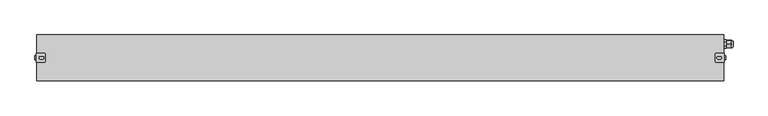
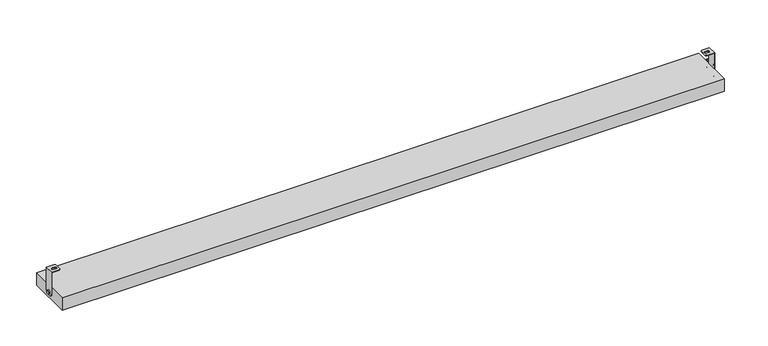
"""IFC4 building model written with IfcOpenShell, lengths in millimetres: light fixture geometry, GENILED_Светильник светодиодный_Titan Advanced : Titan Advanced 1500x100x30 60Вт IP66 Матовое закаленное стекло."""

from ifc_helpers import new_model, si_unit, point, frame, frame_2d, origin, origin_with_axes, place, context, project, spatial, polyline, circle_curve, ellipse_curve, trimmed, segment, composite_curve, outline, extrude, source, transform, mapped, element, save
from ifc_brep_helpers import plane_surface, cylinder_surface, revolved_surface, advanced_brep


def light_fixture_ddc3e724(model_context):
    return source(origin(), model_context, "Body", "SolidModel", [
        advanced_brep(
        [(-734.0, 10.0, 67.0), (-751.0, 10.0, 67.0), (-751.0, -10.0, 67.0), (-734.0, -10.0, 67.0), (-731.0, -7.0, 67.0), (-731.0, 7.0, 67.0), (-737.0, 2.75, 67.0), (-737.0, -2.75, 67.0), (-742.0, -2.75, 67.0), (-742.0, 2.75, 67.0), (-734.0, -10.0, 66.0), (-750.0, -10.0, 66.0), (-750.0, 10.0, 66.0), (-734.0, 10.0, 66.0), (-731.0, 7.0, 66.0), (-731.0, -7.0, 66.0), (-737.0, 2.75, 66.0), (-742.0, 2.75, 66.0), (-742.0, -2.75, 66.0), (-737.0, -2.75, 66.0), (-751.0, -10.0, 15.0), (-750.0, -10.0, 15.0), (-751.0, 10.0, 15.0), (-751.0, 2.0, 7.0), (-751.0, -2.0, 7.0), (-751.0, 4.0, 15.0), (-751.0, -4.0, 15.0), (-750.0, 10.0, 15.0), (-750.0, -2.0, 7.0), (-750.0, 2.0, 7.0), (-754.0, -4.0, 15.0), (-754.0, 4.0, 15.0)],
        [
            (0, 1),
            (1, 2),
            (2, 3),
            (3, 4, circle_curve(frame((-734.0, -7.0, 67.0), z_axis=(0.0, 0.0, 1.0), x_axis=(-1.0, 0.0, 0.0)), 3.0)),
            (4, 5),
            (5, 0, circle_curve(frame((-734.0, 7.0, 67.0), z_axis=(0.0, 0.0, 1.0), x_axis=(-1.0, 0.0, 0.0)), 3.0)),
            (6, 7, circle_curve(frame((-737.0, 0.0, 67.0), z_axis=(0.0, 0.0, -1.0), x_axis=(-1.0, 0.0, 0.0)), 2.75)),
            (7, 8),
            (8, 9, circle_curve(frame((-742.0, 0.0, 67.0), z_axis=(0.0, 0.0, -1.0), x_axis=(-1.0, 0.0, 0.0)), 2.75)),
            (9, 6),
            (10, 11),
            (11, 12),
            (12, 13),
            (13, 14, circle_curve(frame((-734.0, 7.0, 66.0), z_axis=(0.0, 0.0, -1.0), x_axis=(-1.0, 0.0, 0.0)), 3.0)),
            (14, 15),
            (15, 10, circle_curve(frame((-734.0, -7.0, 66.0), z_axis=(0.0, 0.0, -1.0), x_axis=(-1.0, 0.0, 0.0)), 3.0)),
            (16, 17),
            (17, 18, circle_curve(frame((-742.0, 0.0, 66.0), z_axis=(0.0, 0.0, 1.0), x_axis=(-1.0, 0.0, 0.0)), 2.75)),
            (18, 19),
            (19, 16, circle_curve(frame((-737.0, 0.0, 66.0), z_axis=(0.0, 0.0, 1.0), x_axis=(-1.0, 0.0, 0.0)), 2.75)),
            (5, 14),
            (13, 0),
            (4, 15),
            (3, 10),
            (2, 20),
            (20, 21),
            (21, 11),
            (1, 22),
            (22, 23, circle_curve(frame((-751.0, 2.0, 15.0), z_axis=(-1.0, 0.0, 0.0), x_axis=(0.0, 1.0, 0.0)), 8.0)),
            (23, 24),
            (24, 20, circle_curve(frame((-751.0, -2.0, 15.0), z_axis=(-1.0, 0.0, 0.0), x_axis=(0.0, 1.0, 0.0)), 8.0)),
            (25, 26, circle_curve(frame((-751.0, 0.0, 15.0), z_axis=(1.0, 0.0, 0.0), x_axis=(0.0, 1.0, 0.0)), 4.0)),
            (26, 25, circle_curve(frame((-751.0, 0.0, 15.0), z_axis=(1.0, 0.0, 0.0), x_axis=(0.0, 1.0, 0.0)), 4.0)),
            (12, 27),
            (27, 22),
            (9, 17),
            (16, 6),
            (8, 18),
            (7, 19),
            (21, 28, circle_curve(frame((-750.0, -2.0, 15.0), z_axis=(1.0, 0.0, 0.0), x_axis=(0.0, 1.0, 0.0)), 8.0)),
            (28, 29),
            (29, 27, circle_curve(frame((-750.0, 2.0, 15.0), z_axis=(1.0, 0.0, 0.0), x_axis=(0.0, 1.0, 0.0)), 8.0)),
            (24, 28),
            (23, 29),
            (30, 31, circle_curve(frame((-754.0, 0.0, 15.0), z_axis=(-1.0, 0.0, 0.0), x_axis=(0.0, 1.0, 0.0)), 4.0)),
            (31, 30, circle_curve(frame((-754.0, 0.0, 15.0), z_axis=(-1.0, 0.0, 0.0), x_axis=(0.0, 1.0, 0.0)), 4.0)),
            (31, 25),
            (26, 30),
        ],
        [
            plane_surface(frame((-737.0, 7.0, 67.0), z_axis=(0.0, 0.0, 1.0), x_axis=(0.0, 1.0, 0.0))),
            plane_surface(frame((-737.0, 7.0, 66.0), z_axis=(0.0, 0.0, -1.0), x_axis=(0.0, -1.0, 0.0))),
            cylinder_surface(frame((-734.0, 7.0, 66.0), z_axis=(0.0, 0.0, 1.0), x_axis=(-1.0, 0.0, 0.0)), 3.0),
            plane_surface(frame((-731.0, 7.0, 67.0), z_axis=(1.0, 0.0, 0.0), x_axis=(0.0, 0.0, -1.0))),
            cylinder_surface(frame((-734.0, -7.0, 66.0), z_axis=(0.0, 0.0, 1.0), x_axis=(-1.0, 0.0, 0.0)), 3.0),
            plane_surface(frame((-734.0, -10.0, 67.0), z_axis=(0.0, -1.0, 0.0), x_axis=(0.0, 0.0, -1.0))),
            plane_surface(frame((-751.0, -10.0, 67.0), z_axis=(-1.0, 0.0, 0.0), x_axis=(0.0, 0.0, -1.0))),
            plane_surface(frame((-751.0, 10.0, 67.0), z_axis=(0.0, 1.0, 0.0), x_axis=(0.0, 0.0, -1.0))),
            plane_surface(frame((-737.0, 2.75, 67.0), z_axis=(0.0, -1.0, 0.0), x_axis=(0.0, 0.0, -1.0))),
            revolved_surface(polyline([(-744.75, 0.0, 66.0), (-744.75, 0.0, 67.0)]), (-742.0, 0.0, 15.0), (0.0, 0.0, -1.0)),
            plane_surface(frame((-742.0, -2.75, 67.0), z_axis=(0.0, 1.0, 0.0), x_axis=(0.0, 0.0, -1.0))),
            revolved_surface(polyline([(-739.75, 0.0, 66.0), (-739.75, 0.0, 67.0)]), (-737.0, 0.0, 15.0), (0.0, 0.0, -1.0)),
            plane_surface(frame((-750.0, -10.0, 67.0), z_axis=(1.0, 0.0, 0.0), x_axis=(0.0, 1.0, 0.0))),
            cylinder_surface(frame((-750.0, -2.0, 15.0), z_axis=(-1.0, 0.0, 0.0), x_axis=(0.0, 1.0, 0.0)), 8.0),
            plane_surface(frame((-751.0, -2.0, 7.0), z_axis=(0.0, 0.0, -1.0), x_axis=(1.0, 0.0, 0.0))),
            cylinder_surface(frame((-750.0, 2.0, 15.0), z_axis=(-1.0, 0.0, 0.0), x_axis=(0.0, 1.0, 0.0)), 8.0),
            plane_surface(frame((-754.0, 4.0, 15.0), z_axis=(-1.0, 0.0, 0.0), x_axis=(0.0, 0.0, 1.0))),
            cylinder_surface(frame((-751.0, 0.0, 15.0), z_axis=(-1.0, 0.0, 0.0), x_axis=(0.0, 1.0, 0.0)), 4.0),
        ],
        [
            (0, [[1, 2, 3, 4, 5, 6], [7, 8, 9, 10]]),
            (1, [[11, 12, 13, 14, 15, 16], [17, 18, 19, 20]]),
            (2, [[21, -14, 22, -6]]),
            (3, [[23, -15, -21, -5]]),
            (4, [[24, -16, -23, -4]]),
            (5, [[-3, 25, 26, 27, -11, -24]]),
            (6, [[28, 29, 30, 31, -25, -2], [32, 33]]),
            (7, [[-13, 34, 35, -28, -1, -22]]),
            (8, [[36, -17, 37, -10]]),
            (9, [[38, -18, -36, -9]]),
            (10, [[39, -19, -38, -8]]),
            (11, [[-37, -20, -39, -7]]),
            (12, [[-34, -12, -27, 40, 41, 42]]),
            (13, [[43, -40, -26, -31]]),
            (14, [[44, -41, -43, -30]]),
            (15, [[-35, -42, -44, -29]]),
            (16, [[45, 46]]),
            (17, [[47, -33, 48, -46]]),
            (17, [[-48, -32, -47, -45]]),
        ],
    ),
        advanced_brep(
        [(734.0, 10.0, 67.0), (731.0, 7.0, 67.0), (731.0, -7.0, 67.0), (734.0, -10.0, 67.0), (751.0, -10.0, 67.0), (751.0, 10.0, 67.0), (737.0, 2.75, 67.0), (742.0, 2.75, 67.0), (742.0, -2.75, 67.0), (737.0, -2.75, 67.0), (734.0, -10.0, 66.0), (731.0, -7.0, 66.0), (731.0, 7.0, 66.0), (734.0, 10.0, 66.0), (750.0, 10.0, 66.0), (750.0, -10.0, 66.0), (737.0, 2.75, 66.0), (737.0, -2.75, 66.0), (742.0, -2.75, 66.0), (742.0, 2.75, 66.0), (750.0, -10.0, 15.0), (751.0, -10.0, 15.0), (751.0, -2.0, 7.0), (751.0, 2.0, 7.0), (751.0, 10.0, 15.0), (751.0, 4.0, 15.0), (751.0, -4.0, 15.0), (750.0, 10.0, 15.0), (750.0, 2.0, 7.0), (750.0, -2.0, 7.0), (754.0, -4.0, 15.0), (754.0, 4.0, 15.0)],
        [
            (0, 1, circle_curve(frame((734.0, 7.0, 67.0), z_axis=(0.0, 0.0, 1.0), x_axis=(1.0, 0.0, 0.0)), 3.0)),
            (1, 2),
            (2, 3, circle_curve(frame((734.0, -7.0, 67.0), z_axis=(0.0, 0.0, 1.0), x_axis=(1.0, 0.0, 0.0)), 3.0)),
            (3, 4),
            (4, 5),
            (5, 0),
            (6, 7),
            (7, 8, circle_curve(frame((742.0, 0.0, 67.0), z_axis=(0.0, 0.0, -1.0), x_axis=(1.0, 0.0, 0.0)), 2.75)),
            (8, 9),
            (9, 6, circle_curve(frame((737.0, 0.0, 67.0), z_axis=(0.0, 0.0, -1.0), x_axis=(1.0, 0.0, 0.0)), 2.75)),
            (10, 11, circle_curve(frame((734.0, -7.0, 66.0), z_axis=(0.0, 0.0, -1.0), x_axis=(1.0, 0.0, 0.0)), 3.0)),
            (11, 12),
            (12, 13, circle_curve(frame((734.0, 7.0, 66.0), z_axis=(0.0, 0.0, -1.0), x_axis=(1.0, 0.0, 0.0)), 3.0)),
            (13, 14),
            (14, 15),
            (15, 10),
            (16, 17, circle_curve(frame((737.0, 0.0, 66.0), z_axis=(0.0, 0.0, 1.0), x_axis=(1.0, 0.0, 0.0)), 2.75)),
            (17, 18),
            (18, 19, circle_curve(frame((742.0, 0.0, 66.0), z_axis=(0.0, 0.0, 1.0), x_axis=(1.0, 0.0, 0.0)), 2.75)),
            (19, 16),
            (0, 13),
            (12, 1),
            (11, 2),
            (10, 3),
            (15, 20),
            (20, 21),
            (21, 4),
            (21, 22, circle_curve(frame((751.0, -2.0, 15.0), z_axis=(1.0, 0.0, 0.0), x_axis=(0.0, 1.0, 0.0)), 8.0)),
            (22, 23),
            (23, 24, circle_curve(frame((751.0, 2.0, 15.0), z_axis=(1.0, 0.0, 0.0), x_axis=(0.0, 1.0, 0.0)), 8.0)),
            (24, 5),
            (25, 26, circle_curve(frame((751.0, 0.0, 15.0), z_axis=(-1.0, 0.0, 0.0), x_axis=(0.0, 1.0, 0.0)), 4.0)),
            (26, 25, circle_curve(frame((751.0, 0.0, 15.0), z_axis=(-1.0, 0.0, 0.0), x_axis=(0.0, 1.0, 0.0)), 4.0)),
            (24, 27),
            (27, 14),
            (6, 16),
            (19, 7),
            (18, 8),
            (17, 9),
            (27, 28, circle_curve(frame((750.0, 2.0, 15.0), z_axis=(-1.0, 0.0, 0.0), x_axis=(0.0, 1.0, 0.0)), 8.0)),
            (28, 29),
            (29, 20, circle_curve(frame((750.0, -2.0, 15.0), z_axis=(-1.0, 0.0, 0.0), x_axis=(0.0, 1.0, 0.0)), 8.0)),
            (29, 22),
            (28, 23),
            (30, 31, circle_curve(frame((754.0, 0.0, 15.0), z_axis=(1.0, 0.0, 0.0), x_axis=(0.0, 1.0, 0.0)), 4.0)),
            (31, 30, circle_curve(frame((754.0, 0.0, 15.0), z_axis=(1.0, 0.0, 0.0), x_axis=(0.0, 1.0, 0.0)), 4.0)),
            (30, 26),
            (25, 31),
        ],
        [
            plane_surface(frame((737.0, 7.0, 67.0), z_axis=(0.0, 0.0, 1.0), x_axis=(0.0, 1.0, 0.0))),
            plane_surface(frame((737.0, 7.0, 66.0), z_axis=(0.0, 0.0, -1.0), x_axis=(0.0, -1.0, 0.0))),
            cylinder_surface(frame((734.0, 7.0, 66.0), z_axis=(0.0, 0.0, 1.0), x_axis=(1.0, 0.0, 0.0)), 3.0),
            plane_surface(frame((731.0, 7.0, 67.0), z_axis=(-1.0, 0.0, 0.0), x_axis=(0.0, 0.0, -1.0))),
            cylinder_surface(frame((734.0, -7.0, 66.0), z_axis=(0.0, 0.0, 1.0), x_axis=(1.0, 0.0, 0.0)), 3.0),
            plane_surface(frame((734.0, -10.0, 67.0), z_axis=(0.0, -1.0, 0.0), x_axis=(0.0, 0.0, -1.0))),
            plane_surface(frame((751.0, -10.0, 67.0), z_axis=(1.0, 0.0, 0.0), x_axis=(0.0, 0.0, -1.0))),
            plane_surface(frame((751.0, 10.0, 67.0), z_axis=(0.0, 1.0, 0.0), x_axis=(0.0, 0.0, -1.0))),
            plane_surface(frame((737.0, 2.75, 67.0), z_axis=(0.0, -1.0, 0.0), x_axis=(0.0, 0.0, -1.0))),
            revolved_surface(polyline([(744.75, 0.0, 66.0), (744.75, 0.0, 67.0)]), (742.0, 0.0, 15.0), (0.0, 0.0, -1.0)),
            plane_surface(frame((742.0, -2.75, 67.0), z_axis=(0.0, 1.0, 0.0), x_axis=(0.0, 0.0, -1.0))),
            revolved_surface(polyline([(739.75, 0.0, 66.0), (739.75, 0.0, 67.0)]), (737.0, 0.0, 15.0), (0.0, 0.0, -1.0)),
            plane_surface(frame((750.0, -10.0, 67.0), z_axis=(-1.0, 0.0, 0.0), x_axis=(0.0, 1.0, 0.0))),
            cylinder_surface(frame((750.0, -2.0, 15.0), z_axis=(1.0, 0.0, 0.0), x_axis=(0.0, 1.0, 0.0)), 8.0),
            plane_surface(frame((751.0, -2.0, 7.0), z_axis=(0.0, 0.0, -1.0), x_axis=(-1.0, 0.0, 0.0))),
            cylinder_surface(frame((750.0, 2.0, 15.0), z_axis=(1.0, 0.0, 0.0), x_axis=(0.0, 1.0, 0.0)), 8.0),
            plane_surface(frame((754.0, 4.0, 15.0), z_axis=(1.0, 0.0, 0.0), x_axis=(0.0, 0.0, 1.0))),
            cylinder_surface(frame((751.0, 0.0, 15.0), z_axis=(1.0, 0.0, 0.0), x_axis=(0.0, 1.0, 0.0)), 4.0),
        ],
        [
            (0, [[1, 2, 3, 4, 5, 6], [7, 8, 9, 10]]),
            (1, [[11, 12, 13, 14, 15, 16], [17, 18, 19, 20]]),
            (2, [[-1, 21, -13, 22]]),
            (3, [[-2, -22, -12, 23]]),
            (4, [[-3, -23, -11, 24]]),
            (5, [[-24, -16, 25, 26, 27, -4]]),
            (6, [[-5, -27, 28, 29, 30, 31], [32, 33]]),
            (7, [[-21, -6, -31, 34, 35, -14]]),
            (8, [[-7, 36, -20, 37]]),
            (9, [[-8, -37, -19, 38]]),
            (10, [[-9, -38, -18, 39]]),
            (11, [[-10, -39, -17, -36]]),
            (12, [[40, 41, 42, -25, -15, -35]]),
            (13, [[-28, -26, -42, 43]]),
            (14, [[-29, -43, -41, 44]]),
            (15, [[-30, -44, -40, -34]]),
            (16, [[45, 46]]),
            (17, [[-45, 47, -32, 48]]),
            (17, [[-46, -48, -33, -47]]),
        ],
    ),
        advanced_brep(
        [(770.0120269, 24.15, 15.0), (770.0120269, 35.85, 15.0), (770.0120269, 33.5, 15.0), (770.0120269, 26.5, 15.0), (766.0120269, 22.0, 15.0), (766.0120269, 26.0, 8.0717968), (766.0120269, 34.0, 8.0717968), (766.0120269, 38.0, 15.0), (766.0120269, 34.0, 21.9282032), (766.0120269, 26.0, 21.9282032), (766.0120269, 33.5, 15.0), (766.0120269, 26.5, 15.0), (766.0120269, 22.0, 10.8768944), (766.0120269, 22.4292858, 10.1333496), (766.0120269, 29.5707142, 6.010244), (766.0120269, 30.4292858, 6.010244), (766.0120269, 37.5707142, 10.1333496), (766.0120269, 38.0, 10.8768944), (766.0120269, 38.0, 19.1231056), (766.0120269, 37.5707142, 19.8666504), (766.0120269, 30.4292858, 23.989756), (766.0120269, 29.5707142, 23.989756), (766.0120269, 22.4292858, 19.8666504), (766.0120269, 22.0, 19.1231056), (756.6, 29.5707142, 6.010244), (756.6, 22.4292858, 10.1333496), (756.6, 22.0, 10.8768944), (756.6, 22.0, 19.1231056), (756.6, 22.4292858, 19.8666504), (756.6, 29.5707142, 23.989756), (756.6, 30.4292858, 23.989756), (756.6, 37.5707142, 19.8666504), (756.6, 38.0, 19.1231056), (756.6, 38.0, 10.8768944), (756.6, 37.5707142, 10.1333496), (756.6, 30.4292858, 6.010244), (756.6, 37.25, 15.0), (756.6, 22.75, 15.0), (754.6, 37.25, 15.0), (754.6, 22.75, 15.0), (754.6, 38.989756, 15.4292858), (754.6, 34.8666504, 22.5707142), (754.6, 34.1231056, 23.0), (754.6, 25.8768944, 23.0), (754.6, 25.1333496, 22.5707142), (754.6, 21.010244, 15.4292858), (754.6, 21.0, 15.0), (754.6, 21.010244, 14.5707142), (754.6, 25.1333496, 7.4292858), (754.6, 25.8768944, 7.0), (754.6, 34.1231056, 7.0), (754.6, 34.8666504, 7.4292858), (754.6, 38.989756, 14.5707142), (754.6, 39.0, 15.0), (750.0, 38.989756, 14.5707142), (750.0, 34.8666504, 7.4292858), (750.0, 34.1231056, 7.0), (750.0, 25.8768944, 7.0), (750.0, 25.1333496, 7.4292858), (750.0, 21.010244, 14.5707142), (750.0, 21.0, 15.0), (750.0, 21.010244, 15.4292858), (750.0, 25.1333496, 22.5707142), (750.0, 25.8768944, 23.0), (750.0, 34.1231056, 23.0), (750.0, 34.8666504, 22.5707142), (750.0, 38.989756, 15.4292858), (750.0, 39.0, 15.0)],
        [
            (0, 1, circle_curve(frame((770.0120269, 30.0, 15.0), z_axis=(1.0, 0.0, 0.0), x_axis=(0.0, 1.0, 0.0)), 5.85)),
            (1, 2),
            (2, 3, circle_curve(frame((770.0120269, 30.0, 15.0), z_axis=(-1.0, 0.0, 0.0), x_axis=(0.0, 1.0, 0.0)), 3.5)),
            (3, 0),
            (1, 0, circle_curve(frame((770.0120269, 30.0, 15.0), z_axis=(1.0, 0.0, 0.0), x_axis=(0.0, 1.0, 0.0)), 5.85)),
            (3, 2, circle_curve(frame((770.0120269, 30.0, 15.0), z_axis=(-1.0, 0.0, 0.0), x_axis=(0.0, 1.0, 0.0)), 3.5)),
            (0, 4, circle_curve(frame((765.6269324, 27.5123851, 15.0), z_axis=(0.0, 0.0, -1.0), x_axis=(0.0, 1.0, 0.0)), 5.5258201)),
            (4, 5, circle_curve(frame((766.0120269, 30.0, 15.0), z_axis=(1.0, 0.0, 0.0), x_axis=(0.0, 1.0, 0.0)), 8.0)),
            (5, 6, circle_curve(frame((766.0120269, 30.0, 15.0), z_axis=(1.0, 0.0, 0.0), x_axis=(0.0, 1.0, 0.0)), 8.0)),
            (6, 7, circle_curve(frame((766.0120269, 30.0, 15.0), z_axis=(1.0, 0.0, 0.0), x_axis=(0.0, 1.0, 0.0)), 8.0)),
            (7, 1, circle_curve(frame((765.6269324, 32.4876149, 15.0), z_axis=(0.0, 0.0, -1.0), x_axis=(0.0, -1.0, 0.0)), 5.5258201)),
            (7, 8, circle_curve(frame((766.0120269, 30.0, 15.0), z_axis=(1.0, 0.0, 0.0), x_axis=(0.0, 1.0, 0.0)), 8.0)),
            (8, 9, circle_curve(frame((766.0120269, 30.0, 15.0), z_axis=(1.0, 0.0, 0.0), x_axis=(0.0, 1.0, 0.0)), 8.0)),
            (9, 4, circle_curve(frame((766.0120269, 30.0, 15.0), z_axis=(1.0, 0.0, 0.0), x_axis=(0.0, 1.0, 0.0)), 8.0)),
            (2, 10),
            (10, 11, circle_curve(frame((766.0120269, 30.0, 15.0), z_axis=(-1.0, 0.0, 0.0), x_axis=(0.0, 1.0, 0.0)), 3.5)),
            (11, 3),
            (11, 10, circle_curve(frame((766.0120269, 30.0, 15.0), z_axis=(-1.0, 0.0, 0.0), x_axis=(0.0, 1.0, 0.0)), 3.5)),
            (4, 12),
            (12, 13, circle_curve(frame((766.0120269, 30.0, 15.0), z_axis=(1.0, 0.0, 0.0), x_axis=(0.0, -1.0, 0.0)), 9.0)),
            (13, 5),
            (5, 14),
            (14, 15, circle_curve(frame((766.0120269, 30.0, 15.0), z_axis=(1.0, 0.0, 0.0), x_axis=(0.0, -1.0, 0.0)), 9.0)),
            (15, 6),
            (6, 16),
            (16, 17, circle_curve(frame((766.0120269, 30.0, 15.0), z_axis=(1.0, 0.0, 0.0), x_axis=(0.0, -1.0, 0.0)), 9.0)),
            (17, 7),
            (7, 18),
            (18, 19, circle_curve(frame((766.0120269, 30.0, 15.0), z_axis=(1.0, 0.0, 0.0), x_axis=(0.0, -1.0, 0.0)), 9.0)),
            (19, 8),
            (8, 20),
            (20, 21, circle_curve(frame((766.0120269, 30.0, 15.0), z_axis=(1.0, 0.0, 0.0), x_axis=(0.0, -1.0, 0.0)), 9.0)),
            (21, 9),
            (9, 22),
            (22, 23, circle_curve(frame((766.0120269, 30.0, 15.0), z_axis=(1.0, 0.0, 0.0), x_axis=(0.0, -1.0, 0.0)), 9.0)),
            (23, 4),
            (24, 25),
            (25, 26, circle_curve(frame((756.6, 30.0, 15.0), z_axis=(-1.0, 0.0, 0.0), x_axis=(0.0, -1.0, 0.0)), 9.0)),
            (26, 27),
            (27, 28, circle_curve(frame((756.6, 30.0, 15.0), z_axis=(-1.0, 0.0, 0.0), x_axis=(0.0, -1.0, 0.0)), 9.0)),
            (28, 29),
            (29, 30, circle_curve(frame((756.6, 30.0, 15.0), z_axis=(-1.0, 0.0, 0.0), x_axis=(0.0, -1.0, 0.0)), 9.0)),
            (30, 31),
            (31, 32, circle_curve(frame((756.6, 30.0, 15.0), z_axis=(-1.0, 0.0, 0.0), x_axis=(0.0, -1.0, 0.0)), 9.0)),
            (32, 33),
            (33, 34, circle_curve(frame((756.6, 30.0, 15.0), z_axis=(-1.0, 0.0, 0.0), x_axis=(0.0, -1.0, 0.0)), 9.0)),
            (34, 35),
            (35, 24, circle_curve(frame((756.6, 30.0, 15.0), z_axis=(-1.0, 0.0, 0.0), x_axis=(0.0, -1.0, 0.0)), 9.0)),
            (36, 37, circle_curve(frame((756.6, 30.0, 15.0), z_axis=(1.0, 0.0, 0.0), x_axis=(0.0, -1.0, 0.0)), 7.25)),
            (37, 36, circle_curve(frame((756.6, 30.0, 15.0), z_axis=(1.0, 0.0, 0.0), x_axis=(0.0, -1.0, 0.0)), 7.25)),
            (15, 35),
            (34, 16),
            (17, 33),
            (32, 18),
            (19, 31),
            (30, 20),
            (21, 29),
            (28, 22),
            (23, 27),
            (26, 12),
            (13, 25),
            (24, 14),
            (36, 38),
            (38, 39, circle_curve(frame((754.6, 30.0, 15.0), z_axis=(1.0, 0.0, 0.0), x_axis=(0.0, -1.0, 0.0)), 7.25)),
            (39, 37),
            (39, 38, circle_curve(frame((754.6, 30.0, 15.0), z_axis=(1.0, 0.0, 0.0), x_axis=(0.0, -1.0, 0.0)), 7.25)),
            (40, 41),
            (41, 42, circle_curve(frame((754.6, 30.0, 15.0), z_axis=(1.0, 0.0, 0.0), x_axis=(0.0, -1.0, 0.0)), 9.0)),
            (42, 43),
            (43, 44, circle_curve(frame((754.6, 30.0, 15.0), z_axis=(1.0, 0.0, 0.0), x_axis=(0.0, -1.0, 0.0)), 9.0)),
            (44, 45),
            (45, 46, circle_curve(frame((754.6, 30.0, 15.0), z_axis=(1.0, 0.0, 0.0), x_axis=(0.0, -1.0, 0.0)), 9.0)),
            (46, 47, circle_curve(frame((754.6, 30.0, 15.0), z_axis=(1.0, 0.0, 0.0), x_axis=(0.0, -1.0, 0.0)), 9.0)),
            (47, 48),
            (48, 49, circle_curve(frame((754.6, 30.0, 15.0), z_axis=(1.0, 0.0, 0.0), x_axis=(0.0, -1.0, 0.0)), 9.0)),
            (49, 50),
            (50, 51, circle_curve(frame((754.6, 30.0, 15.0), z_axis=(1.0, 0.0, 0.0), x_axis=(0.0, -1.0, 0.0)), 9.0)),
            (51, 52),
            (52, 53, circle_curve(frame((754.6, 30.0, 15.0), z_axis=(1.0, 0.0, 0.0), x_axis=(0.0, -1.0, 0.0)), 9.0)),
            (53, 40, circle_curve(frame((754.6, 30.0, 15.0), z_axis=(1.0, 0.0, 0.0), x_axis=(0.0, -1.0, 0.0)), 9.0)),
            (54, 55),
            (55, 56, circle_curve(frame((750.0, 30.0, 15.0), z_axis=(-1.0, 0.0, 0.0), x_axis=(0.0, -1.0, 0.0)), 9.0)),
            (56, 57),
            (57, 58, circle_curve(frame((750.0, 30.0, 15.0), z_axis=(-1.0, 0.0, 0.0), x_axis=(0.0, -1.0, 0.0)), 9.0)),
            (58, 59),
            (59, 60, circle_curve(frame((750.0, 30.0, 15.0), z_axis=(-1.0, 0.0, 0.0), x_axis=(0.0, -1.0, 0.0)), 9.0)),
            (60, 61, circle_curve(frame((750.0, 30.0, 15.0), z_axis=(-1.0, 0.0, 0.0), x_axis=(0.0, -1.0, 0.0)), 9.0)),
            (61, 62),
            (62, 63, circle_curve(frame((750.0, 30.0, 15.0), z_axis=(-1.0, 0.0, 0.0), x_axis=(0.0, -1.0, 0.0)), 9.0)),
            (63, 64),
            (64, 65, circle_curve(frame((750.0, 30.0, 15.0), z_axis=(-1.0, 0.0, 0.0), x_axis=(0.0, -1.0, 0.0)), 9.0)),
            (65, 66),
            (66, 67, circle_curve(frame((750.0, 30.0, 15.0), z_axis=(-1.0, 0.0, 0.0), x_axis=(0.0, -1.0, 0.0)), 9.0)),
            (67, 54, circle_curve(frame((750.0, 30.0, 15.0), z_axis=(-1.0, 0.0, 0.0), x_axis=(0.0, -1.0, 0.0)), 9.0)),
            (40, 66),
            (65, 41),
            (42, 64),
            (63, 43),
            (44, 62),
            (61, 45),
            (47, 59),
            (58, 48),
            (49, 57),
            (56, 50),
            (51, 55),
            (54, 52),
            (67, 53),
            (46, 60),
        ],
        [
            plane_surface(frame((770.0120269, 30.0, 15.0), z_axis=(1.0, 0.0, 0.0), x_axis=(0.0, 1.0, 0.0))),
            revolved_surface(trimmed(ellipse_curve(frame((765.6269324, 32.4876149, 15.0), z_axis=(0.0, 0.0, 1.0), x_axis=(0.0, -1.0, 0.0)), 5.5258201, 5.5258201), [point((770.0120269, 35.85, 15.0))], [point((766.0120269, 38.0, 15.0))], True, "CARTESIAN"), (766.0120269, 30.0, 15.0), (-1.0, 0.0, 0.0)),
            revolved_surface(polyline([(766.0120269, 33.5, 15.0), (770.0120269, 33.5, 15.0)]), (766.0120269, 30.0, 15.0), (-1.0, 0.0, 0.0)),
            plane_surface(frame((766.0120269, 30.0, 5.7623957), z_axis=(1.0000000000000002, 0.0, 0.0), x_axis=(0.0, 0.8660254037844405, 0.49999999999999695))),
            plane_surface(frame((756.6, 30.0, 5.7623957), z_axis=(-1.0000000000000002, 0.0, 0.0), x_axis=(0.0, -0.8660254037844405, -0.49999999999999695))),
            plane_surface(frame((766.0120269, 30.0, 5.7623957), z_axis=(0.0, 0.49999999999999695, -0.8660254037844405), x_axis=(-1.0, 0.0, 0.0))),
            plane_surface(frame((766.0120269, 38.0, 10.3811978), z_axis=(0.0, 1.0, 0.0), x_axis=(-1.0, 0.0, 0.0))),
            plane_surface(frame((766.0120269, 38.0, 19.6188022), z_axis=(0.0, 0.5000000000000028, 0.8660254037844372), x_axis=(-1.0, 0.0, 0.0))),
            plane_surface(frame((766.0120269, 30.0, 24.2376043), z_axis=(0.0, -0.49999999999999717, 0.8660254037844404), x_axis=(-1.0, 0.0, 0.0))),
            plane_surface(frame((766.0120269, 22.0, 19.6188022), z_axis=(0.0, -1.0, 0.0), x_axis=(-1.0, 0.0, 0.0))),
            plane_surface(frame((766.0120269, 22.0, 10.3811978), z_axis=(0.0, -0.5000000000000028, -0.8660254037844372), x_axis=(-1.0, 0.0, 0.0))),
            cylinder_surface(frame((754.6, 30.0, 15.0), z_axis=(1.0, 0.0, 0.0), x_axis=(0.0, -1.0, 0.0)), 7.25),
            plane_surface(frame((754.6, 39.2376043, 15.0), z_axis=(1.0, 0.0, 0.0), x_axis=(0.0, -0.5000000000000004, 0.8660254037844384))),
            plane_surface(frame((750.0, 39.2376043, 15.0), z_axis=(-1.0, 0.0, 0.0), x_axis=(0.0, 0.5000000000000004, -0.8660254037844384))),
            plane_surface(frame((754.6, 39.2376043, 15.0), z_axis=(0.0, 0.8660254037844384, 0.5000000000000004), x_axis=(-1.0, 0.0, 0.0))),
            plane_surface(frame((754.6, 34.6188022, 23.0), z_axis=(0.0, 0.0, 1.0), x_axis=(-1.0, 0.0, 0.0))),
            plane_surface(frame((754.6, 25.3811978, 23.0), z_axis=(0.0, -0.866025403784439, 0.49999999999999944), x_axis=(-1.0, 0.0, 0.0))),
            plane_surface(frame((754.6, 20.7623957, 15.0), z_axis=(0.0, -0.8660254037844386, -0.5000000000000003), x_axis=(-1.0, 0.0, 0.0))),
            plane_surface(frame((754.6, 25.3811978, 7.0), z_axis=(0.0, 0.0, -1.0), x_axis=(-1.0, 0.0, 0.0))),
            plane_surface(frame((754.6, 34.6188022, 7.0), z_axis=(0.0, 0.8660254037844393, -0.49999999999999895), x_axis=(-1.0, 0.0, 0.0))),
            cylinder_surface(frame((750.0, 30.0, 15.0), z_axis=(-1.0, 0.0, 0.0), x_axis=(0.0, -1.0, 0.0)), 9.0),
        ],
        [
            (0, [[1, 2, 3, 4]]),
            (0, [[-2, 5, -4, 6]]),
            (1, [[-1, 7, 8, 9, 10, 11]]),
            (1, [[-5, -11, 12, 13, 14, -7]]),
            (2, [[-3, 15, 16, 17]]),
            (2, [[-6, -17, 18, -15]]),
            (3, [[-8, 19, 20, 21]]),
            (3, [[-9, 22, 23, 24]]),
            (3, [[-10, 25, 26, 27]]),
            (3, [[-12, 28, 29, 30]]),
            (3, [[-13, 31, 32, 33]]),
            (3, [[-14, 34, 35, 36]]),
            (3, [[-16, -18]]),
            (4, [[37, 38, 39, 40, 41, 42, 43, 44, 45, 46, 47, 48], [49, 50]]),
            (5, [[-25, -24, 51, -47, 52]]),
            (6, [[-27, 53, -45, 54, -28]]),
            (7, [[-30, 55, -43, 56, -31]]),
            (8, [[-34, -33, 57, -41, 58]]),
            (9, [[-36, 59, -39, 60, -19]]),
            (10, [[-21, 61, -37, 62, -22]]),
            (11, [[63, 64, 65, -49]]),
            (11, [[-63, -50, -65, 66]]),
            (12, [[67, 68, 69, 70, 71, 72, 73, 74, 75, 76, 77, 78, 79, 80], [-64, -66]]),
            (13, [[81, 82, 83, 84, 85, 86, 87, 88, 89, 90, 91, 92, 93, 94]]),
            (14, [[-67, 95, -92, 96]]),
            (15, [[-69, 97, -90, 98]]),
            (16, [[-71, 99, -88, 100]]),
            (17, [[-74, 101, -85, 102]]),
            (18, [[-76, 103, -83, 104]]),
            (19, [[-78, 105, -81, 106]]),
            (20, [[-20, -60, -38, -61]]),
            (20, [[-23, -62, -48, -51]]),
            (20, [[-26, -52, -46, -53]]),
            (20, [[-75, -102, -84, -103]]),
            (20, [[-77, -104, -82, -105]]),
            (20, [[107, -79, -106, -94]]),
            (20, [[108, -86, -101, -73]]),
            (20, [[-29, -54, -44, -55]]),
            (20, [[-32, -56, -42, -57]]),
            (20, [[-35, -58, -40, -59]]),
            (20, [[-68, -96, -91, -97]]),
            (20, [[-70, -98, -89, -99]]),
            (20, [[-107, -93, -95, -80]]),
            (20, [[-108, -72, -100, -87]]),
        ],
    ),
        advanced_brep(
        [(750.0, 50.0, 30.0), (-750.0, 50.0, 30.0), (-750.0, -50.0, 30.0), (750.0, -50.0, 30.0), (750.0, 50.0, 0.0), (750.0, -50.0, 0.0), (-750.0, -50.0, 0.0), (-750.0, 50.0, 0.0), (720.0, 35.0, 0.0), (-720.0, 35.0, 0.0), (-735.0, 20.0, 0.0), (-735.0, -20.0, 0.0), (-720.0, -35.0, 0.0), (720.0, -35.0, 0.0), (735.0, -20.0, 0.0), (735.0, 20.0, 0.0), (735.0, 20.0, 5.0), (720.0, 35.0, 5.0), (735.0, -20.0, 5.0), (720.0, -35.0, 5.0), (-720.0, -35.0, 5.0), (-735.0, -20.0, 5.0), (-735.0, 20.0, 5.0), (-720.0, 35.0, 5.0)],
        [
            (0, 1),
            (1, 2),
            (2, 3),
            (3, 0),
            (4, 5),
            (5, 6),
            (6, 7),
            (7, 4),
            (8, 9),
            (9, 10, circle_curve(frame((-720.0, 20.0, 0.0), z_axis=(0.0, 0.0, 1.0), x_axis=(1.0, 0.0, 0.0)), 15.0)),
            (10, 11),
            (11, 12, circle_curve(frame((-720.0, -20.0, 0.0), z_axis=(0.0, 0.0, 1.0), x_axis=(1.0, 0.0, 0.0)), 15.0)),
            (12, 13),
            (13, 14, circle_curve(frame((720.0, -20.0, 0.0), z_axis=(0.0, 0.0, 1.0), x_axis=(1.0, 0.0, 0.0)), 15.0)),
            (14, 15),
            (15, 8, circle_curve(frame((720.0, 20.0, 0.0), z_axis=(0.0, 0.0, 1.0), x_axis=(1.0, 0.0, 0.0)), 15.0)),
            (0, 4),
            (7, 1),
            (6, 2),
            (5, 3),
            (15, 16),
            (16, 17, circle_curve(frame((720.0, 20.0, 5.0), z_axis=(0.0, 0.0, 1.0), x_axis=(1.0, 0.0, 0.0)), 15.0)),
            (17, 8),
            (14, 18),
            (18, 16),
            (13, 19),
            (19, 18, circle_curve(frame((720.0, -20.0, 5.0), z_axis=(0.0, 0.0, 1.0), x_axis=(1.0, 0.0, 0.0)), 15.0)),
            (12, 20),
            (20, 19),
            (11, 21),
            (21, 20, circle_curve(frame((-720.0, -20.0, 5.0), z_axis=(0.0, 0.0, 1.0), x_axis=(1.0, 0.0, 0.0)), 15.0)),
            (10, 22),
            (22, 21),
            (9, 23),
            (23, 22, circle_curve(frame((-720.0, 20.0, 5.0), z_axis=(0.0, 0.0, 1.0), x_axis=(1.0, 0.0, 0.0)), 15.0)),
            (17, 23),
        ],
        [
            plane_surface(frame((-750.0, 50.0, 30.0), z_axis=(0.0, 0.0, 1.0), x_axis=(-1.0, 0.0, 0.0))),
            plane_surface(frame((-750.0, 50.0, 0.0), z_axis=(0.0, 0.0, -1.0), x_axis=(1.0, 0.0, 0.0))),
            plane_surface(frame((750.0, 50.0, 30.0), z_axis=(0.0, 1.0, 0.0), x_axis=(0.0, 0.0, -1.0))),
            plane_surface(frame((-750.0, 50.0, 30.0), z_axis=(-1.0, 0.0, 0.0), x_axis=(0.0, 0.0, -1.0))),
            plane_surface(frame((-750.0, -50.0, 30.0), z_axis=(0.0, -1.0, 0.0), x_axis=(0.0, 0.0, -1.0))),
            plane_surface(frame((750.0, -50.0, 30.0), z_axis=(1.0, 0.0, 0.0), x_axis=(0.0, 0.0, -1.0))),
            revolved_surface(polyline([(735.0, 20.0, 0.0), (735.0, 20.0, 5.0)]), (720.0, 20.0, 0.0), (0.0, 0.0, -1.0)),
            plane_surface(frame((735.0, 20.0, 30.0), z_axis=(-1.0, 0.0, 0.0), x_axis=(0.0, 0.0, -1.0))),
            revolved_surface(polyline([(735.0, -20.0, 0.0), (735.0, -20.0, 5.0)]), (720.0, -20.0, 0.0), (0.0, 0.0, -1.0)),
            plane_surface(frame((720.0, -35.0, 30.0), z_axis=(0.0, 1.0, 0.0), x_axis=(0.0, 0.0, -1.0))),
            revolved_surface(polyline([(-705.0, -20.0, 0.0), (-705.0, -20.0, 5.0)]), (-720.0, -20.0, 0.0), (0.0, 0.0, -1.0)),
            plane_surface(frame((-735.0, -20.0, 30.0), z_axis=(1.0, 0.0, 0.0), x_axis=(0.0, 0.0, -1.0))),
            revolved_surface(polyline([(-705.0, 20.0, 0.0), (-705.0, 20.0, 5.0)]), (-720.0, 20.0, 0.0), (0.0, 0.0, -1.0)),
            plane_surface(frame((-720.0, 35.0, 30.0), z_axis=(0.0, -1.0, 0.0), x_axis=(0.0, 0.0, -1.0))),
            plane_surface(frame((-720.0, 35.0, 5.0), z_axis=(0.0, 0.0, -1.0), x_axis=(1.0, 0.0, 0.0))),
        ],
        [
            (0, [[1, 2, 3, 4]]),
            (1, [[5, 6, 7, 8], [9, 10, 11, 12, 13, 14, 15, 16]]),
            (2, [[-1, 17, -8, 18]]),
            (3, [[-2, -18, -7, 19]]),
            (4, [[-3, -19, -6, 20]]),
            (5, [[-4, -20, -5, -17]]),
            (6, [[-16, 21, 22, 23]]),
            (7, [[-15, 24, 25, -21]]),
            (8, [[-14, 26, 27, -24]]),
            (9, [[-13, 28, 29, -26]]),
            (10, [[-12, 30, 31, -28]]),
            (11, [[-11, 32, 33, -30]]),
            (12, [[-10, 34, 35, -32]]),
            (13, [[-9, -23, 36, -34]]),
            (14, [[-22, -25, -27, -29, -31, -33, -35, -36]]),
        ],
    ),
        extrude(outline(composite_curve([segment(trimmed(circle_curve(frame_2d((720.0, 20.0)), 15.0), [point((720.0, 35.0))], [point((735.0, 20.0))], False, "CARTESIAN"), True, "CONTINUOUS"), segment(polyline([(735.0, 20.0), (735.0, -20.0)]), True, "CONTINUOUS"), segment(trimmed(circle_curve(frame_2d((720.0, -20.0)), 15.0), [point((735.0, -20.0))], [point((720.0, -35.0))], False, "CARTESIAN"), True, "CONTINUOUS"), segment(polyline([(720.0, -35.0), (-720.0, -35.0)]), True, "CONTINUOUS"), segment(trimmed(circle_curve(frame_2d((-720.0, -20.0)), 15.0), [point((-720.0, -35.0))], [point((-735.0, -20.0))], False, "CARTESIAN"), True, "CONTINUOUS"), segment(polyline([(-735.0, -20.0), (-735.0, 20.0)]), True, "CONTINUOUS"), segment(trimmed(circle_curve(frame_2d((-720.0, 20.0)), 15.0), [point((-735.0, 20.0))], [point((-720.0, 35.0))], False, "CARTESIAN"), True, "CONTINUOUS"), segment(polyline([(-720.0, 35.0), (720.0, 35.0)]), True, "CONTINUOUS")], self_intersect=False)), origin_with_axes(), (0.0, 0.0, 1.0), 5.0),
    ])


if __name__ == "__main__":
    model = new_model("IFC4")
    model_context = context("Model", 3, world=origin())
    ifc_project = project(units=[si_unit("LENGTHUNIT", "METRE", prefix="MILLI")], contexts=[model_context])
    site = spatial("IfcSite", under=ifc_project)
    building = spatial("IfcBuilding", under=site)
    placement = place(None, origin())
    light_fixture_shape = light_fixture_ddc3e724(model_context)
    element("IfcLightFixture", 1, ObjectType="GENILED_Светильник светодиодный_Titan Advanced : Titan Advanced 1500x100x30 60Вт IP66 Матовое закаленное стекло", at=placement, inside=building, context=model_context, shape_type="MappedRepresentation", body=[
        mapped(light_fixture_shape, transform((0.0, 0.0, 0.0), x_axis=(1.0, 0.0, 0.0), y_axis=(0.0, 1.0, 0.0), z_axis=(0.0, 0.0, 1.0))),
    ])
    save(model, "model.ifc")
